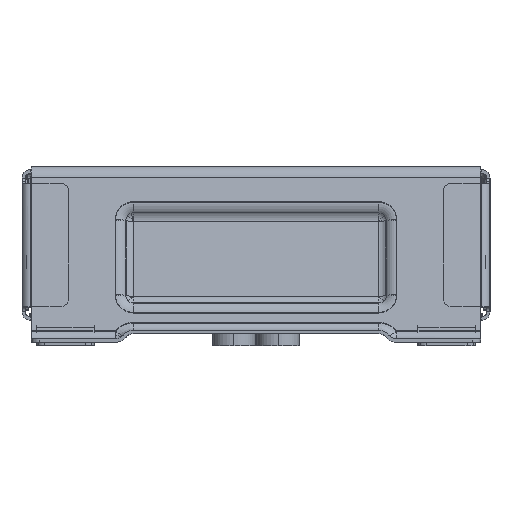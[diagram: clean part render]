
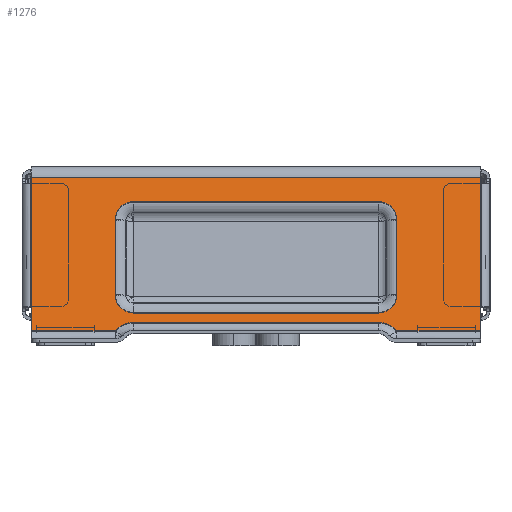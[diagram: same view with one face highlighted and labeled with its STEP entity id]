
A CAD part, left-side view. The second image highlights one B-rep face of the part: STEP entity #1276.
In plain terms, the highlighted planar face has unit normal (-0.979, 0, 0.203).
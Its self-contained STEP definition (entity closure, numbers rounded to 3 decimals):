
#904=CARTESIAN_POINT('Vertex',(-474.382,-861.,100.023)) ;
#907=CARTESIAN_POINT('Line Origine',(-483.738,-861.,54.853)) ;
#911=CARTESIAN_POINT('Vertex',(-493.095,-861.,9.683)) ;
#1120=CARTESIAN_POINT('Vertex',(-493.095,-811.724,9.683)) ;
#1130=CARTESIAN_POINT('Line Origine',(-493.095,-729.,9.683)) ;
#1143=CARTESIAN_POINT('Axis2P3D Location',(-473.061,-729.,106.4)) ;
#1148=CARTESIAN_POINT('Line Origine',(-492.059,-729.,14.683)) ;
#1152=CARTESIAN_POINT('Vertex',(-492.059,-801.,14.683)) ;
#1154=CARTESIAN_POINT('Vertex',(-492.059,-657.,14.683)) ;
#1158=CARTESIAN_POINT('Control Point',(-493.095,-811.724,9.683)) ;
#1159=CARTESIAN_POINT('Control Point',(-492.893,-810.91,10.654)) ;
#1160=CARTESIAN_POINT('Control Point',(-492.711,-809.983,11.535)) ;
#1161=CARTESIAN_POINT('Control Point',(-492.551,-808.957,12.308)) ;
#1162=CARTESIAN_POINT('Control Point',(-492.293,-806.839,13.554)) ;
#1163=CARTESIAN_POINT('Control Point',(-492.135,-804.496,14.315)) ;
#1164=CARTESIAN_POINT('Control Point',(-492.084,-803.343,14.561)) ;
#1165=CARTESIAN_POINT('Control Point',(-492.059,-802.172,14.683)) ;
#1166=CARTESIAN_POINT('Control Point',(-492.059,-801.,14.683)) ;
#1168=CARTESIAN_POINT('Line Origine',(-474.382,-729.,100.023)) ;
#1172=CARTESIAN_POINT('Vertex',(-474.382,-597.,100.023)) ;
#1175=CARTESIAN_POINT('Line Origine',(-483.738,-597.,54.853)) ;
#1179=CARTESIAN_POINT('Vertex',(-493.095,-597.,9.683)) ;
#1182=CARTESIAN_POINT('Line Origine',(-493.095,-621.639,9.683)) ;
#1186=CARTESIAN_POINT('Vertex',(-493.095,-646.277,9.683)) ;
#1190=CARTESIAN_POINT('Control Point',(-492.059,-657.,14.683)) ;
#1191=CARTESIAN_POINT('Control Point',(-492.059,-655.729,14.683)) ;
#1192=CARTESIAN_POINT('Control Point',(-492.089,-654.457,14.539)) ;
#1193=CARTESIAN_POINT('Control Point',(-492.149,-653.208,14.249)) ;
#1194=CARTESIAN_POINT('Control Point',(-492.32,-650.885,13.425)) ;
#1195=CARTESIAN_POINT('Control Point',(-492.589,-648.804,12.124)) ;
#1196=CARTESIAN_POINT('Control Point',(-492.74,-647.873,11.396)) ;
#1197=CARTESIAN_POINT('Control Point',(-492.909,-647.027,10.578)) ;
#1198=CARTESIAN_POINT('Control Point',(-493.095,-646.277,9.683)) ;
#1210=CARTESIAN_POINT('Line Origine',(-477.377,-729.,85.561)) ;
#1214=CARTESIAN_POINT('Vertex',(-477.377,-801.,85.561)) ;
#1216=CARTESIAN_POINT('Vertex',(-477.377,-657.,85.561)) ;
#1219=CARTESIAN_POINT('Axis2P3D Location',(-479.552,-801.,75.06)) ;
#1223=CARTESIAN_POINT('Vertex',(-479.552,-811.724,75.06)) ;
#1226=CARTESIAN_POINT('Line Origine',(-484.11,-811.724,53.06)) ;
#1230=CARTESIAN_POINT('Vertex',(-488.667,-811.724,31.06)) ;
#1233=CARTESIAN_POINT('Axis2P3D Location',(-488.667,-801.,31.06)) ;
#1237=CARTESIAN_POINT('Vertex',(-490.842,-801.,20.559)) ;
#1240=CARTESIAN_POINT('Line Origine',(-490.842,-729.,20.559)) ;
#1244=CARTESIAN_POINT('Vertex',(-490.842,-657.,20.559)) ;
#1247=CARTESIAN_POINT('Axis2P3D Location',(-488.667,-657.,31.06)) ;
#1251=CARTESIAN_POINT('Vertex',(-488.667,-646.277,31.06)) ;
#1254=CARTESIAN_POINT('Line Origine',(-484.11,-646.277,53.06)) ;
#1258=CARTESIAN_POINT('Vertex',(-479.552,-646.277,75.06)) ;
#1261=CARTESIAN_POINT('Axis2P3D Location',(-479.552,-657.,75.06)) ;
#908=DIRECTION('Vector Direction',(-0.203,0.,-0.979)) ;
#1131=DIRECTION('Vector Direction',(0.,1.,0.)) ;
#1144=DIRECTION('Axis2P3D Direction',(0.979,0.,-0.203)) ;
#1145=DIRECTION('Axis2P3D XDirection',(-0.203,0.,-0.979)) ;
#1149=DIRECTION('Vector Direction',(0.,-1.,0.)) ;
#1169=DIRECTION('Vector Direction',(0.,1.,0.)) ;
#1176=DIRECTION('Vector Direction',(-0.203,0.,-0.979)) ;
#1183=DIRECTION('Vector Direction',(0.,1.,0.)) ;
#1211=DIRECTION('Vector Direction',(0.,-1.,0.)) ;
#1220=DIRECTION('Axis2P3D Direction',(0.979,0.,-0.203)) ;
#1227=DIRECTION('Vector Direction',(-0.203,0.,-0.979)) ;
#1234=DIRECTION('Axis2P3D Direction',(0.979,0.,-0.203)) ;
#1241=DIRECTION('Vector Direction',(0.,1.,0.)) ;
#1248=DIRECTION('Axis2P3D Direction',(0.979,0.,-0.203)) ;
#1255=DIRECTION('Vector Direction',(0.203,0.,0.979)) ;
#1262=DIRECTION('Axis2P3D Direction',(0.979,0.,-0.203)) ;
#1146=AXIS2_PLACEMENT_3D('Plane Axis2P3D',#1143,#1144,#1145) ;
#1221=AXIS2_PLACEMENT_3D('Circle Axis2P3D',#1219,#1220,$) ;
#1235=AXIS2_PLACEMENT_3D('Circle Axis2P3D',#1233,#1234,$) ;
#1249=AXIS2_PLACEMENT_3D('Circle Axis2P3D',#1247,#1248,$) ;
#1263=AXIS2_PLACEMENT_3D('Circle Axis2P3D',#1261,#1262,$) ;
#1201=ORIENTED_EDGE('',*,*,#1156,.F.) ;
#1202=ORIENTED_EDGE('',*,*,#1167,.F.) ;
#1203=ORIENTED_EDGE('',*,*,#1134,.F.) ;
#1204=ORIENTED_EDGE('',*,*,#913,.F.) ;
#1205=ORIENTED_EDGE('',*,*,#1174,.T.) ;
#1206=ORIENTED_EDGE('',*,*,#1181,.T.) ;
#1207=ORIENTED_EDGE('',*,*,#1188,.F.) ;
#1208=ORIENTED_EDGE('',*,*,#1199,.F.) ;
#1267=ORIENTED_EDGE('',*,*,#1218,.F.) ;
#1268=ORIENTED_EDGE('',*,*,#1225,.F.) ;
#1269=ORIENTED_EDGE('',*,*,#1232,.F.) ;
#1270=ORIENTED_EDGE('',*,*,#1239,.F.) ;
#1271=ORIENTED_EDGE('',*,*,#1246,.F.) ;
#1272=ORIENTED_EDGE('',*,*,#1253,.F.) ;
#1273=ORIENTED_EDGE('',*,*,#1260,.F.) ;
#1274=ORIENTED_EDGE('',*,*,#1265,.F.) ;
#1275=FACE_BOUND('',#1266,.T.) ;
#909=VECTOR('Line Direction',#908,1.) ;
#1132=VECTOR('Line Direction',#1131,1.) ;
#1150=VECTOR('Line Direction',#1149,1.) ;
#1170=VECTOR('Line Direction',#1169,1.) ;
#1177=VECTOR('Line Direction',#1176,1.) ;
#1184=VECTOR('Line Direction',#1183,1.) ;
#1212=VECTOR('Line Direction',#1211,1.) ;
#1228=VECTOR('Line Direction',#1227,1.) ;
#1242=VECTOR('Line Direction',#1241,1.) ;
#1256=VECTOR('Line Direction',#1255,1.) ;
#1276=ADVANCED_FACE('SHT0016014.1\\SHT0016145-\X2\5BBD8F664E3B9A7E9A76524D4FA794A391D1\X0\',(#1209,#1275),#1147,.F.) ;
#1157=B_SPLINE_CURVE_WITH_KNOTS('',5,(#1158,#1159,#1160,#1161,#1162,#1163,#1164,#1165,#1166),.UNSPECIFIED.,.F.,.U.,(6,3,6),(0.,9.094,17.391),.UNSPECIFIED.) ;
#1189=B_SPLINE_CURVE_WITH_KNOTS('',5,(#1190,#1191,#1192,#1193,#1194,#1195,#1196,#1197,#1198),.UNSPECIFIED.,.F.,.U.,(6,3,6),(0.,9.01,17.391),.UNSPECIFIED.) ;
#1222=CIRCLE('generated circle',#1221,10.724) ;
#1236=CIRCLE('generated circle',#1235,10.724) ;
#1250=CIRCLE('generated circle',#1249,10.724) ;
#1264=CIRCLE('generated circle',#1263,10.724) ;
#913=EDGE_CURVE('',#905,#912,#910,.T.) ;
#1134=EDGE_CURVE('',#912,#1121,#1133,.T.) ;
#1156=EDGE_CURVE('',#1153,#1155,#1151,.F.) ;
#1167=EDGE_CURVE('',#1121,#1153,#1157,.T.) ;
#1174=EDGE_CURVE('',#905,#1173,#1171,.T.) ;
#1181=EDGE_CURVE('',#1173,#1180,#1178,.T.) ;
#1188=EDGE_CURVE('',#1187,#1180,#1185,.T.) ;
#1199=EDGE_CURVE('',#1155,#1187,#1189,.T.) ;
#1218=EDGE_CURVE('',#1215,#1217,#1213,.F.) ;
#1225=EDGE_CURVE('',#1224,#1215,#1222,.F.) ;
#1232=EDGE_CURVE('',#1231,#1224,#1229,.F.) ;
#1239=EDGE_CURVE('',#1238,#1231,#1236,.F.) ;
#1246=EDGE_CURVE('',#1245,#1238,#1243,.F.) ;
#1253=EDGE_CURVE('',#1252,#1245,#1250,.F.) ;
#1260=EDGE_CURVE('',#1259,#1252,#1257,.F.) ;
#1265=EDGE_CURVE('',#1217,#1259,#1264,.F.) ;
#1200=EDGE_LOOP('',(#1201,#1202,#1203,#1204,#1205,#1206,#1207,#1208)) ;
#1266=EDGE_LOOP('',(#1267,#1268,#1269,#1270,#1271,#1272,#1273,#1274)) ;
#1209=FACE_OUTER_BOUND('',#1200,.T.) ;
#910=LINE('Line',#907,#909) ;
#1133=LINE('Line',#1130,#1132) ;
#1151=LINE('Line',#1148,#1150) ;
#1171=LINE('Line',#1168,#1170) ;
#1178=LINE('Line',#1175,#1177) ;
#1185=LINE('Line',#1182,#1184) ;
#1213=LINE('Line',#1210,#1212) ;
#1229=LINE('Line',#1226,#1228) ;
#1243=LINE('Line',#1240,#1242) ;
#1257=LINE('Line',#1254,#1256) ;
#1147=PLANE('Plane',#1146) ;
#905=VERTEX_POINT('',#904) ;
#912=VERTEX_POINT('',#911) ;
#1121=VERTEX_POINT('',#1120) ;
#1153=VERTEX_POINT('',#1152) ;
#1155=VERTEX_POINT('',#1154) ;
#1173=VERTEX_POINT('',#1172) ;
#1180=VERTEX_POINT('',#1179) ;
#1187=VERTEX_POINT('',#1186) ;
#1215=VERTEX_POINT('',#1214) ;
#1217=VERTEX_POINT('',#1216) ;
#1224=VERTEX_POINT('',#1223) ;
#1231=VERTEX_POINT('',#1230) ;
#1238=VERTEX_POINT('',#1237) ;
#1245=VERTEX_POINT('',#1244) ;
#1252=VERTEX_POINT('',#1251) ;
#1259=VERTEX_POINT('',#1258) ;
